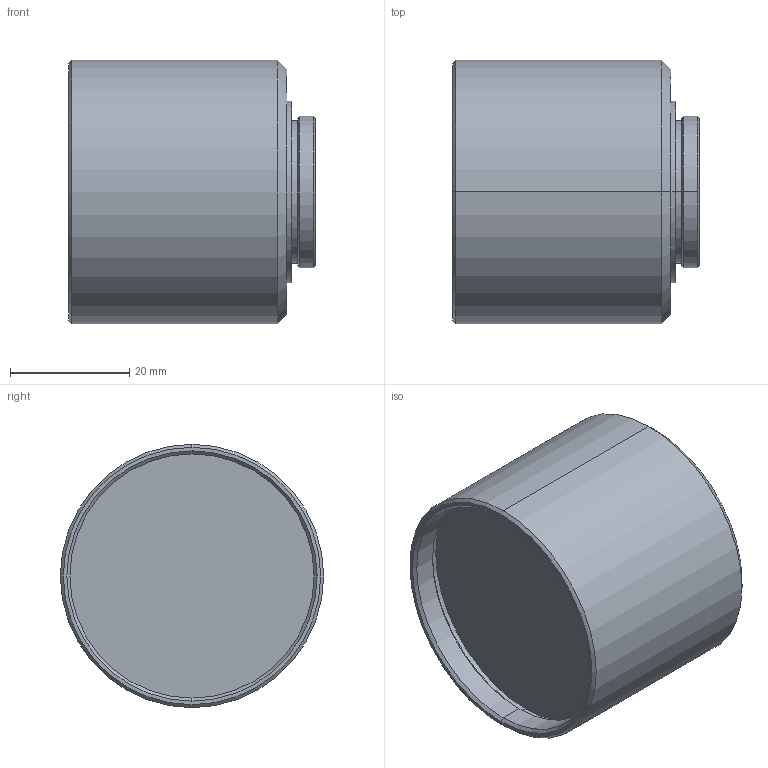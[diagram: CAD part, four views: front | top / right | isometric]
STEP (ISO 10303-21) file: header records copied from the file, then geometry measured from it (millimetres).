
FILE_DESCRIPTION (( 'STEP AP214' ), '1' );
FILE_NAME ('35-08-70-000 OUTLINE.STEP', '2012-11-15T21:28:14', ( '' ), ( '' ), 'SwSTEP 2.0', 'SolidWorks 2011', '' );
FILE_SCHEMA (( 'AUTOMOTIVE_DESIGN' ));
Length unit declared in the file: millimetre
Products named in the file (1): 35-08-70-000 OUTLINE
Bounding box: 41.4 x 44.2 x 44.2 mm (x, y, z)
Volume: 48688.6 mm3; surface area: 9737 mm2
Topology: 1 solids, 1 shells, 34 faces, 66 edges, 40 vertices
Faces by surface type: cylinder 14, cone 12, plane 8
Entity records: 952 total; most frequent: DIRECTION 176, CARTESIAN_POINT 141, ORIENTED_EDGE 132, AXIS2_PLACEMENT_3D 75, EDGE_CURVE 66, VERTEX_POINT 40, CIRCLE 40, EDGE_LOOP 40
